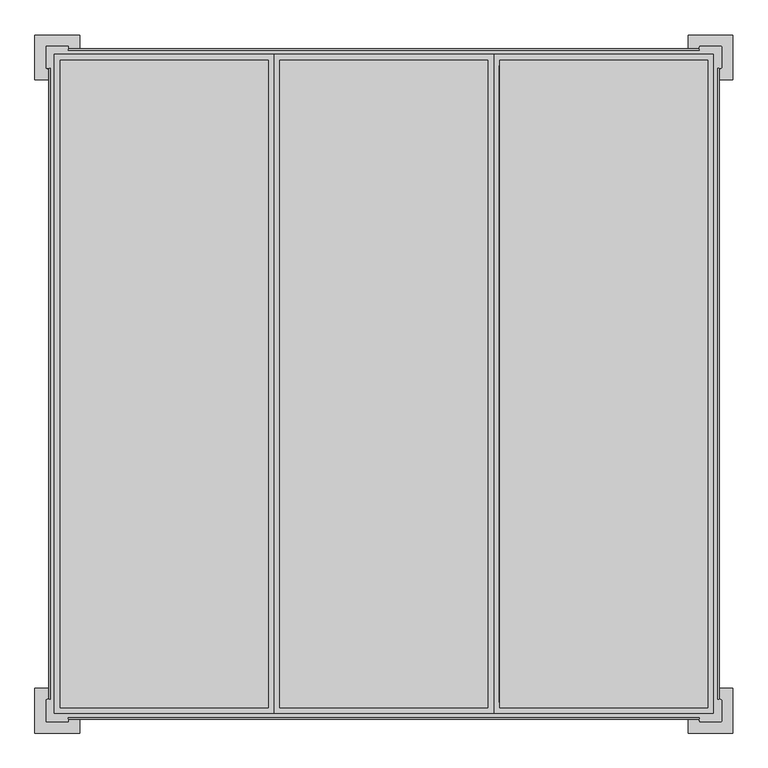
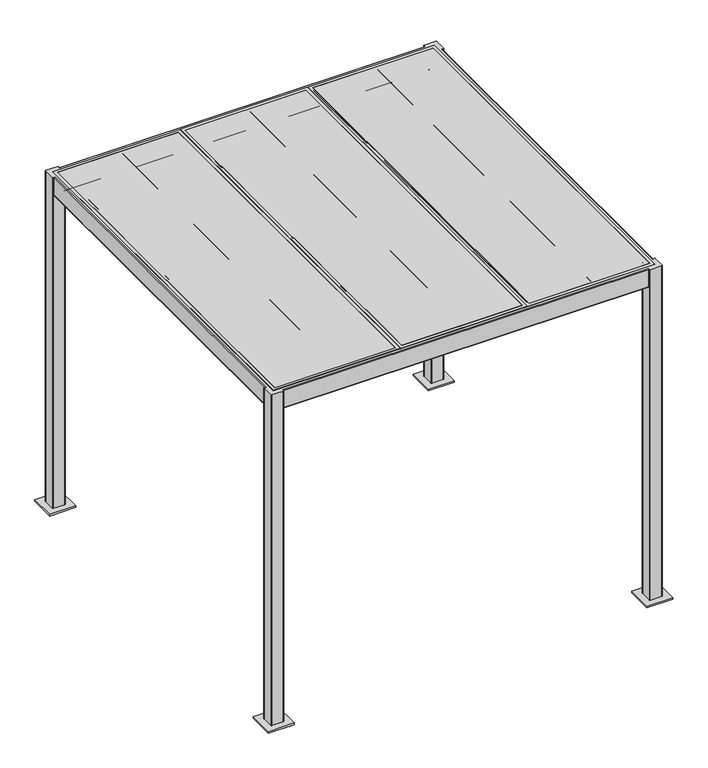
"""IFC4 building model written with IfcOpenShell, lengths in millimetres: proxy geometry, VIVA-Railings_Special-Equipment_Shade-Structurel-Sun-Control-System : 10’ 0” x 10’ 0” - Aluminum 1/8''."""

from ifc_helpers import new_model, si_unit, point, frame, frame_2d, origin, place, context, project, spatial, polyline, circle_curve, trimmed, segment, composite_curve, outline, extrude, source, transform, mapped, element, save
from ifc_brep_helpers import plane_surface, cylinder_surface, advanced_brep


def specialty_equipment_c06f3a59(model_context):
    return source(origin(), model_context, "Body", "SolidModel", [
        extrude(outline(composite_curve([segment(polyline([(2755.9, 1031.875), (2755.9, 993.775)]), True, "CONTINUOUS"), segment(trimmed(circle_curve(frame_2d((2749.55, 993.775)), 6.35), [point((2755.9, 993.775))], [point((2749.55, 987.425))], False, "CARTESIAN"), True, "CONTINUOUS"), segment(polyline([(2749.55, 987.425), (2635.25, 987.425)]), True, "CONTINUOUS"), segment(trimmed(circle_curve(frame_2d((2635.25, 993.775)), 6.35), [point((2635.25, 987.425))], [point((2628.9, 993.775))], False, "CARTESIAN"), True, "CONTINUOUS"), segment(polyline([(2628.9, 993.775), (2628.9, 1031.875)]), True, "CONTINUOUS"), segment(trimmed(circle_curve(frame_2d((2635.25, 1031.875)), 6.35), [point((2628.9, 1031.875))], [point((2635.25, 1038.225))], False, "CARTESIAN"), True, "CONTINUOUS"), segment(polyline([(2635.25, 1038.225), (2749.55, 1038.225)]), True, "CONTINUOUS"), segment(trimmed(circle_curve(frame_2d((2749.55, 1031.875)), 6.35), [point((2749.55, 1038.225))], [point((2755.9, 1031.875))], False, "CARTESIAN"), True, "CONTINUOUS")], self_intersect=False)), frame((0.0, -1143.0, 0.0), z_axis=(0.0, 1.0, 0.0), x_axis=(0.0, 0.0, 1.0)), (0.0, 0.0, 1.0), 2895.6),
        extrude(outline(composite_curve([segment(polyline([(2755.9, 31.75), (2755.9, -6.35)]), True, "CONTINUOUS"), segment(trimmed(circle_curve(frame_2d((2749.55, -6.35)), 6.35), [point((2755.9, -6.35))], [point((2749.55, -12.7))], False, "CARTESIAN"), True, "CONTINUOUS"), segment(polyline([(2749.55, -12.7), (2635.25, -12.7)]), True, "CONTINUOUS"), segment(trimmed(circle_curve(frame_2d((2635.25, -6.35)), 6.35), [point((2635.25, -12.7))], [point((2628.9, -6.35))], False, "CARTESIAN"), True, "CONTINUOUS"), segment(polyline([(2628.9, -6.35), (2628.9, 31.75)]), True, "CONTINUOUS"), segment(trimmed(circle_curve(frame_2d((2635.25, 31.75)), 6.35), [point((2628.9, 31.75))], [point((2635.25, 38.1))], False, "CARTESIAN"), True, "CONTINUOUS"), segment(polyline([(2635.25, 38.1), (2749.55, 38.1)]), True, "CONTINUOUS"), segment(trimmed(circle_curve(frame_2d((2749.55, 31.75)), 6.35), [point((2749.55, 38.1))], [point((2755.9, 31.75))], False, "CARTESIAN"), True, "CONTINUOUS")], self_intersect=False)), frame((0.0, -1143.0, 0.0), z_axis=(0.0, 1.0, 0.0), x_axis=(0.0, 0.0, 1.0)), (0.0, 0.0, 1.0), 2895.6),
        extrude(outline(composite_curve([segment(polyline([(2755.9, -968.375), (2755.9, -1006.475)]), True, "CONTINUOUS"), segment(trimmed(circle_curve(frame_2d((2749.55, -1006.475)), 6.35), [point((2755.9, -1006.475))], [point((2749.55, -1012.825))], False, "CARTESIAN"), True, "CONTINUOUS"), segment(polyline([(2749.55, -1012.825), (2635.25, -1012.825)]), True, "CONTINUOUS"), segment(trimmed(circle_curve(frame_2d((2635.25, -1006.475)), 6.35), [point((2635.25, -1012.825))], [point((2628.9, -1006.475))], False, "CARTESIAN"), True, "CONTINUOUS"), segment(polyline([(2628.9, -1006.475), (2628.9, -968.375)]), True, "CONTINUOUS"), segment(trimmed(circle_curve(frame_2d((2635.25, -968.375)), 6.35), [point((2628.9, -968.375))], [point((2635.25, -962.025))], False, "CARTESIAN"), True, "CONTINUOUS"), segment(polyline([(2635.25, -962.025), (2749.55, -962.025)]), True, "CONTINUOUS"), segment(trimmed(circle_curve(frame_2d((2749.55, -968.375)), 6.35), [point((2749.55, -962.025))], [point((2755.9, -968.375))], False, "CARTESIAN"), True, "CONTINUOUS")], self_intersect=False)), frame((0.0, -1143.0, 0.0), z_axis=(0.0, 1.0, 0.0), x_axis=(0.0, 0.0, 1.0)), (0.0, 0.0, 1.0), 2895.6),
        extrude(outline(composite_curve([segment(polyline([(2755.9, 531.8125), (2755.9, 493.7125)]), True, "CONTINUOUS"), segment(trimmed(circle_curve(frame_2d((2749.55, 493.7125)), 6.35), [point((2755.9, 493.7125))], [point((2749.55, 487.3625))], False, "CARTESIAN"), True, "CONTINUOUS"), segment(polyline([(2749.55, 487.3625), (2635.25, 487.3625)]), True, "CONTINUOUS"), segment(trimmed(circle_curve(frame_2d((2635.25, 493.7125)), 6.35), [point((2635.25, 487.3625))], [point((2628.9, 493.7125))], False, "CARTESIAN"), True, "CONTINUOUS"), segment(polyline([(2628.9, 493.7125), (2628.9, 531.8125)]), True, "CONTINUOUS"), segment(trimmed(circle_curve(frame_2d((2635.25, 531.8125)), 6.35), [point((2628.9, 531.8125))], [point((2635.25, 538.1625))], False, "CARTESIAN"), True, "CONTINUOUS"), segment(polyline([(2635.25, 538.1625), (2749.55, 538.1625)]), True, "CONTINUOUS"), segment(trimmed(circle_curve(frame_2d((2749.55, 531.8125)), 6.35), [point((2749.55, 538.1625))], [point((2755.9, 531.8125))], False, "CARTESIAN"), True, "CONTINUOUS")], self_intersect=False)), frame((0.0, -1143.0, 0.0), z_axis=(0.0, 1.0, 0.0), x_axis=(0.0, 0.0, 1.0)), (0.0, 0.0, 1.0), 2895.6),
        extrude(outline(composite_curve([segment(polyline([(2755.9, -468.3125), (2755.9, -506.4125)]), True, "CONTINUOUS"), segment(trimmed(circle_curve(frame_2d((2749.55, -506.4125)), 6.35), [point((2755.9, -506.4125))], [point((2749.55, -512.7625))], False, "CARTESIAN"), True, "CONTINUOUS"), segment(polyline([(2749.55, -512.7625), (2635.25, -512.7625)]), True, "CONTINUOUS"), segment(trimmed(circle_curve(frame_2d((2635.25, -506.4125)), 6.35), [point((2635.25, -512.7625))], [point((2628.9, -506.4125))], False, "CARTESIAN"), True, "CONTINUOUS"), segment(polyline([(2628.9, -506.4125), (2628.9, -468.3125)]), True, "CONTINUOUS"), segment(trimmed(circle_curve(frame_2d((2635.25, -468.3125)), 6.35), [point((2628.9, -468.3125))], [point((2635.25, -461.9625))], False, "CARTESIAN"), True, "CONTINUOUS"), segment(polyline([(2635.25, -461.9625), (2749.55, -461.9625)]), True, "CONTINUOUS"), segment(trimmed(circle_curve(frame_2d((2749.55, -468.3125)), 6.35), [point((2749.55, -461.9625))], [point((2755.9, -468.3125))], False, "CARTESIAN"), True, "CONTINUOUS")], self_intersect=False)), frame((0.0, -1143.0, 0.0), z_axis=(0.0, 1.0, 0.0), x_axis=(0.0, 0.0, 1.0)), (0.0, 0.0, 1.0), 2895.6),
        extrude(outline(polyline([(1485.9, 1778.0), (1485.9, -1168.4), (539.75, -1168.4), (539.75, 1778.0), (1485.9, 1778.0)])), frame((0.0, 0.0, 2755.9), z_axis=(0.0, 0.0, 1.0), x_axis=(1.0, 0.0, 0.0)), (0.0, 0.0, 1.0), 3.175),
        extrude(outline(polyline([(1511.3, 1803.4), (1511.3, -1193.8), (514.35, -1193.8), (514.35, 1803.4), (1511.3, 1803.4)]), holes=[polyline([(1485.9, 1778.0), (539.75, 1778.0), (539.75, -1168.4), (1485.9, -1168.4), (1485.9, 1778.0)])]), frame((0.0, 0.0, 2755.9), z_axis=(0.0, 0.0, 1.0), x_axis=(1.0, 0.0, 0.0)), (0.0, 0.0, 1.0), 3.175),
        extrude(outline(polyline([(485.775, 1778.0), (485.775, -1168.4), (-460.375, -1168.4), (-460.375, 1778.0), (485.775, 1778.0)])), frame((0.0, 0.0, 2755.9), z_axis=(0.0, 0.0, 1.0), x_axis=(1.0, 0.0, 0.0)), (0.0, 0.0, 1.0), 3.175),
        extrude(outline(polyline([(-514.35, 1778.0), (-514.35, -1168.4), (-1460.5, -1168.4), (-1460.5, 1778.0), (-514.35, 1778.0)])), frame((0.0, 0.0, 2755.9), z_axis=(0.0, 0.0, 1.0), x_axis=(1.0, 0.0, 0.0)), (0.0, 0.0, 1.0), 3.175),
        extrude(outline(polyline([(511.175, 1803.4), (511.175, -1193.8), (-485.775, -1193.8), (-485.775, 1803.4), (511.175, 1803.4)]), holes=[polyline([(485.775, 1778.0), (-460.375, 1778.0), (-460.375, -1168.4), (485.775, -1168.4), (485.775, 1778.0)])]), frame((0.0, 0.0, 2755.9), z_axis=(0.0, 0.0, 1.0), x_axis=(1.0, 0.0, 0.0)), (0.0, 0.0, 1.0), 3.175),
        extrude(outline(polyline([(-488.95, 1803.4), (-488.95, -1193.8), (-1485.9, -1193.8), (-1485.9, 1803.4), (-488.95, 1803.4)]), holes=[polyline([(-514.35, 1778.0), (-1460.5, 1778.0), (-1460.5, -1168.4), (-514.35, -1168.4), (-514.35, 1778.0)])]), frame((0.0, 0.0, 2755.9), z_axis=(0.0, 0.0, 1.0), x_axis=(1.0, 0.0, 0.0)), (0.0, 0.0, 1.0), 3.175),
        advanced_brep(
        [(-1422.4, -1149.35, 2755.9), (1447.8, -1149.35, 2755.9), (1447.8, -1143.0, 2749.55), (-1422.4, -1143.0, 2749.55), (1447.8, -1143.0, 2609.85), (-1422.4, -1143.0, 2609.85), (1447.8, -1149.35, 2603.5), (-1422.4, -1149.35, 2603.5), (-1422.4, -1212.85, 2603.5), (1447.8, -1212.85, 2603.5), (1447.8, -1219.2, 2609.85), (-1422.4, -1219.2, 2609.85), (1447.8, -1219.2, 2749.55), (-1422.4, -1219.2, 2749.55), (1447.8, -1212.85, 2755.9), (-1422.4, -1212.85, 2755.9), (1466.85, -1130.3, 2755.9), (1466.85, 1739.9, 2755.9), (1460.5, 1739.9, 2749.55), (1460.5, -1130.3, 2749.55), (1460.5, 1739.9, 2609.85), (1460.5, -1130.3, 2609.85), (1466.85, 1739.9, 2603.5), (1466.85, -1130.3, 2603.5), (1530.35, -1130.3, 2603.5), (1530.35, 1739.9, 2603.5), (1536.7, 1739.9, 2609.85), (1536.7, -1130.3, 2609.85), (1536.7, 1739.9, 2749.55), (1536.7, -1130.3, 2749.55), (1530.35, 1739.9, 2755.9), (1530.35, -1130.3, 2755.9), (1447.8, 1758.95, 2755.9), (-1422.4, 1758.95, 2755.9), (-1422.4, 1752.6, 2749.55), (1447.8, 1752.6, 2749.55), (-1422.4, 1752.6, 2609.85), (1447.8, 1752.6, 2609.85), (-1422.4, 1758.95, 2603.5), (1447.8, 1758.95, 2603.5), (1447.8, 1822.45, 2603.5), (-1422.4, 1822.45, 2603.5), (-1422.4, 1828.8, 2609.85), (1447.8, 1828.8, 2609.85), (-1422.4, 1828.8, 2749.55), (1447.8, 1828.8, 2749.55), (-1422.4, 1822.45, 2755.9), (1447.8, 1822.45, 2755.9), (-1441.45, 1739.9, 2755.9), (-1441.45, -1130.3, 2755.9), (-1435.1, -1130.3, 2749.55), (-1435.1, 1739.9, 2749.55), (-1435.1, -1130.3, 2609.85), (-1435.1, 1739.9, 2609.85), (-1441.45, -1130.3, 2603.5), (-1441.45, 1739.9, 2603.5), (-1504.95, -1130.3, 2603.5), (-1504.95, 1739.9, 2603.5), (-1511.3, -1130.3, 2609.85), (-1511.3, 1739.9, 2609.85), (-1511.3, -1130.3, 2749.55), (-1511.3, 1739.9, 2749.55), (-1504.95, -1130.3, 2755.9), (-1504.95, 1739.9, 2755.9), (-1428.75, 1841.5, 2755.9), (-1517.65, 1841.5, 2755.9), (-1524.0, 1835.15, 2755.9), (-1524.0, 1746.25, 2755.9), (-1517.65, 1739.9, 2755.9), (-1517.65, -1130.3, 2755.9), (-1524.0, -1136.65, 2755.9), (-1524.0, -1225.55, 2755.9), (-1517.65, -1231.9, 2755.9), (-1428.75, -1231.9, 2755.9), (-1422.4, -1225.55, 2755.9), (1447.8, -1225.55, 2755.9), (1454.15, -1231.9, 2755.9), (1543.05, -1231.9, 2755.9), (1549.4, -1225.55, 2755.9), (1549.4, -1136.65, 2755.9), (1543.05, -1130.3, 2755.9), (1543.05, 1739.9, 2755.9), (1549.4, 1746.25, 2755.9), (1549.4, 1835.15, 2755.9), (1543.05, 1841.5, 2755.9), (1454.15, 1841.5, 2755.9), (1447.8, 1835.15, 2755.9), (-1422.4, 1835.15, 2755.9), (-1428.75, 1739.9, 2755.9), (-1422.4, 1746.25, 2755.9), (1447.8, 1746.25, 2755.9), (1454.15, 1739.9, 2755.9), (1454.15, -1130.3, 2755.9), (1447.8, -1136.65, 2755.9), (-1422.4, -1136.65, 2755.9), (-1428.75, -1130.3, 2755.9), (-1428.75, 1841.5, 12.7), (-1517.65, 1841.5, 12.7), (-1524.0, 1835.15, 12.7), (-1524.0, 1746.25, 12.7), (-1517.65, 1739.9, 12.7), (-1428.75, 1739.9, 12.7), (-1422.4, 1746.25, 12.7), (-1422.4, 1835.15, 12.7), (1454.15, 1841.5, 12.7), (1447.8, 1835.15, 12.7), (1447.8, 1746.25, 12.7), (1454.15, 1739.9, 12.7), (1543.05, 1739.9, 12.7), (1549.4, 1746.25, 12.7), (1549.4, 1835.15, 12.7), (1543.05, 1841.5, 12.7), (-1428.75, -1231.9, 12.7), (-1422.4, -1225.55, 12.7), (-1422.4, -1136.65, 12.7), (-1428.75, -1130.3, 12.7), (-1517.65, -1130.3, 12.7), (-1524.0, -1136.65, 12.7), (-1524.0, -1225.55, 12.7), (-1517.65, -1231.9, 12.7), (1454.15, -1231.9, 12.7), (1543.05, -1231.9, 12.7), (1549.4, -1225.55, 12.7), (1549.4, -1136.65, 12.7), (1543.05, -1130.3, 12.7), (1454.15, -1130.3, 12.7), (1447.8, -1136.65, 12.7), (1447.8, -1225.55, 12.7), (-1371.6, 1892.3, 12.7), (-1574.8, 1892.3, 12.7), (-1574.8, 1689.1, 12.7), (-1371.6, 1689.1, 12.7), (-1371.6, -1282.7, 12.7), (-1371.6, -1079.5, 12.7), (-1574.8, -1079.5, 12.7), (-1574.8, -1282.7, 12.7), (1397.0, 1892.3, 12.7), (1397.0, 1689.1, 12.7), (1600.2, 1689.1, 12.7), (1600.2, 1892.3, 12.7), (1397.0, -1282.7, 12.7), (1600.2, -1282.7, 12.7), (1600.2, -1079.5, 12.7), (1397.0, -1079.5, 12.7), (-1371.6, 1892.3, 0.0), (-1371.6, 1689.1, 0.0), (-1574.8, 1689.1, 0.0), (-1574.8, 1892.3, 0.0), (-1371.6, -1282.7, 0.0), (-1574.8, -1282.7, 0.0), (-1574.8, -1079.5, 0.0), (-1371.6, -1079.5, 0.0), (1397.0, 1892.3, 0.0), (1600.2, 1892.3, 0.0), (1600.2, 1689.1, 0.0), (1397.0, 1689.1, 0.0), (1397.0, -1282.7, 0.0), (1397.0, -1079.5, 0.0), (1600.2, -1079.5, 0.0), (1600.2, -1282.7, 0.0)],
        [
            (0, 1),
            (1, 2, circle_curve(frame((1447.8, -1149.35, 2749.55), z_axis=(-1.0, 0.0, 0.0), x_axis=(0.0, 1.0, 0.0)), 6.35)),
            (2, 3),
            (3, 0, circle_curve(frame((-1422.4, -1149.35, 2749.55), z_axis=(1.0, 0.0, 0.0), x_axis=(0.0, 1.0, 0.0)), 6.35)),
            (2, 4),
            (4, 5),
            (5, 3),
            (4, 6, circle_curve(frame((1447.8, -1149.35, 2609.85), z_axis=(-1.0, 0.0, 0.0), x_axis=(0.0, 1.0, 0.0)), 6.35)),
            (6, 7),
            (7, 5, circle_curve(frame((-1422.4, -1149.35, 2609.85), z_axis=(1.0, 0.0, 0.0), x_axis=(0.0, 1.0, 0.0)), 6.35)),
            (8, 9),
            (9, 10, circle_curve(frame((1447.8, -1212.85, 2609.85), z_axis=(-1.0, 0.0, 0.0), x_axis=(0.0, 1.0, 0.0)), 6.35)),
            (10, 11),
            (11, 8, circle_curve(frame((-1422.4, -1212.85, 2609.85), z_axis=(1.0, 0.0, 0.0), x_axis=(0.0, 1.0, 0.0)), 6.35)),
            (10, 12),
            (12, 13),
            (13, 11),
            (12, 14, circle_curve(frame((1447.8, -1212.85, 2749.55), z_axis=(-1.0, 0.0, 0.0), x_axis=(0.0, 1.0, 0.0)), 6.35)),
            (14, 15),
            (15, 13, circle_curve(frame((-1422.4, -1212.85, 2749.55), z_axis=(1.0, 0.0, 0.0), x_axis=(0.0, 1.0, 0.0)), 6.35)),
            (16, 17),
            (17, 18, circle_curve(frame((1466.85, 1739.9, 2749.55), z_axis=(0.0, -1.0, 0.0), x_axis=(-1.0, 0.0, 0.0)), 6.35)),
            (18, 19),
            (19, 16, circle_curve(frame((1466.85, -1130.3, 2749.55), z_axis=(0.0, 1.0, 0.0), x_axis=(-1.0, 0.0, 0.0)), 6.35)),
            (18, 20),
            (20, 21),
            (21, 19),
            (20, 22, circle_curve(frame((1466.85, 1739.9, 2609.85), z_axis=(0.0, -1.0, 0.0), x_axis=(-1.0, 0.0, 0.0)), 6.35)),
            (22, 23),
            (23, 21, circle_curve(frame((1466.85, -1130.3, 2609.85), z_axis=(0.0, 1.0, 0.0), x_axis=(-1.0, 0.0, 0.0)), 6.35)),
            (24, 25),
            (25, 26, circle_curve(frame((1530.35, 1739.9, 2609.85), z_axis=(0.0, -1.0, 0.0), x_axis=(-1.0, 0.0, 0.0)), 6.35)),
            (26, 27),
            (27, 24, circle_curve(frame((1530.35, -1130.3, 2609.85), z_axis=(0.0, 1.0, 0.0), x_axis=(-1.0, 0.0, 0.0)), 6.35)),
            (26, 28),
            (28, 29),
            (29, 27),
            (28, 30, circle_curve(frame((1530.35, 1739.9, 2749.55), z_axis=(0.0, -1.0, 0.0), x_axis=(-1.0, 0.0, 0.0)), 6.35)),
            (30, 31),
            (31, 29, circle_curve(frame((1530.35, -1130.3, 2749.55), z_axis=(0.0, 1.0, 0.0), x_axis=(-1.0, 0.0, 0.0)), 6.35)),
            (32, 33),
            (33, 34, circle_curve(frame((-1422.4, 1758.95, 2749.55), z_axis=(1.0, 0.0, 0.0), x_axis=(0.0, -1.0, 0.0)), 6.35)),
            (34, 35),
            (35, 32, circle_curve(frame((1447.8, 1758.95, 2749.55), z_axis=(-1.0, 0.0, 0.0), x_axis=(0.0, -1.0, 0.0)), 6.35)),
            (34, 36),
            (36, 37),
            (37, 35),
            (36, 38, circle_curve(frame((-1422.4, 1758.95, 2609.85), z_axis=(1.0, 0.0, 0.0), x_axis=(0.0, -1.0, 0.0)), 6.35)),
            (38, 39),
            (39, 37, circle_curve(frame((1447.8, 1758.95, 2609.85), z_axis=(-1.0, 0.0, 0.0), x_axis=(0.0, -1.0, 0.0)), 6.35)),
            (40, 41),
            (41, 42, circle_curve(frame((-1422.4, 1822.45, 2609.85), z_axis=(1.0, 0.0, 0.0), x_axis=(0.0, -1.0, 0.0)), 6.35)),
            (42, 43),
            (43, 40, circle_curve(frame((1447.8, 1822.45, 2609.85), z_axis=(-1.0, 0.0, 0.0), x_axis=(0.0, -1.0, 0.0)), 6.35)),
            (42, 44),
            (44, 45),
            (45, 43),
            (44, 46, circle_curve(frame((-1422.4, 1822.45, 2749.55), z_axis=(1.0, 0.0, 0.0), x_axis=(0.0, -1.0, 0.0)), 6.35)),
            (46, 47),
            (47, 45, circle_curve(frame((1447.8, 1822.45, 2749.55), z_axis=(-1.0, 0.0, 0.0), x_axis=(0.0, -1.0, 0.0)), 6.35)),
            (48, 49),
            (49, 50, circle_curve(frame((-1441.45, -1130.3, 2749.55), z_axis=(0.0, 1.0, 0.0), x_axis=(1.0, 0.0, 0.0)), 6.35)),
            (50, 51),
            (51, 48, circle_curve(frame((-1441.45, 1739.9, 2749.55), z_axis=(0.0, -1.0, 0.0), x_axis=(1.0, 0.0, 0.0)), 6.35)),
            (50, 52),
            (52, 53),
            (53, 51),
            (52, 54, circle_curve(frame((-1441.45, -1130.3, 2609.85), z_axis=(0.0, 1.0, 0.0), x_axis=(1.0, 0.0, 0.0)), 6.35)),
            (54, 55),
            (55, 53, circle_curve(frame((-1441.45, 1739.9, 2609.85), z_axis=(0.0, -1.0, 0.0), x_axis=(1.0, 0.0, 0.0)), 6.35)),
            (8, 7),
            (6, 9),
            (24, 23),
            (22, 25),
            (40, 39),
            (38, 41),
            (54, 56),
            (56, 57),
            (57, 55),
            (56, 58, circle_curve(frame((-1504.95, -1130.3, 2609.85), z_axis=(0.0, 1.0, 0.0), x_axis=(1.0, 0.0, 0.0)), 6.35)),
            (58, 59),
            (59, 57, circle_curve(frame((-1504.95, 1739.9, 2609.85), z_axis=(0.0, -1.0, 0.0), x_axis=(1.0, 0.0, 0.0)), 6.35)),
            (58, 60),
            (60, 61),
            (61, 59),
            (60, 62, circle_curve(frame((-1504.95, -1130.3, 2749.55), z_axis=(0.0, 1.0, 0.0), x_axis=(1.0, 0.0, 0.0)), 6.35)),
            (62, 63),
            (63, 61, circle_curve(frame((-1504.95, 1739.9, 2749.55), z_axis=(0.0, -1.0, 0.0), x_axis=(1.0, 0.0, 0.0)), 6.35)),
            (64, 65),
            (65, 66, circle_curve(frame((-1517.65, 1835.15, 2755.9), z_axis=(0.0, 0.0, 1.0), x_axis=(1.0, 0.0, 0.0)), 6.35)),
            (66, 67),
            (67, 68, circle_curve(frame((-1517.65, 1746.25, 2755.9), z_axis=(0.0, 0.0, 1.0), x_axis=(1.0, 0.0, 0.0)), 6.35)),
            (68, 63),
            (62, 69),
            (69, 70, circle_curve(frame((-1517.65, -1136.65, 2755.9), z_axis=(0.0, 0.0, 1.0), x_axis=(1.0, 0.0, 0.0)), 6.35)),
            (70, 71),
            (71, 72, circle_curve(frame((-1517.65, -1225.55, 2755.9), z_axis=(0.0, 0.0, 1.0), x_axis=(1.0, 0.0, 0.0)), 6.35)),
            (72, 73),
            (73, 74, circle_curve(frame((-1428.75, -1225.55, 2755.9), z_axis=(0.0, 0.0, 1.0), x_axis=(1.0, 0.0, 0.0)), 6.35)),
            (74, 15),
            (14, 75),
            (75, 76, circle_curve(frame((1454.15, -1225.55, 2755.9), z_axis=(0.0, 0.0, 1.0), x_axis=(1.0, 0.0, 0.0)), 6.35)),
            (76, 77),
            (77, 78, circle_curve(frame((1543.05, -1225.55, 2755.9), z_axis=(0.0, 0.0, 1.0), x_axis=(1.0, 0.0, 0.0)), 6.35)),
            (78, 79),
            (79, 80, circle_curve(frame((1543.05, -1136.65, 2755.9), z_axis=(0.0, 0.0, 1.0), x_axis=(1.0, 0.0, 0.0)), 6.35)),
            (80, 31),
            (30, 81),
            (81, 82, circle_curve(frame((1543.05, 1746.25, 2755.9), z_axis=(0.0, 0.0, 1.0), x_axis=(1.0, 0.0, 0.0)), 6.35)),
            (82, 83),
            (83, 84, circle_curve(frame((1543.05, 1835.15, 2755.9), z_axis=(0.0, 0.0, 1.0), x_axis=(1.0, 0.0, 0.0)), 6.35)),
            (84, 85),
            (85, 86, circle_curve(frame((1454.15, 1835.15, 2755.9), z_axis=(0.0, 0.0, 1.0), x_axis=(1.0, 0.0, 0.0)), 6.35)),
            (86, 47),
            (46, 87),
            (87, 64, circle_curve(frame((-1428.75, 1835.15, 2755.9), z_axis=(0.0, 0.0, 1.0), x_axis=(1.0, 0.0, 0.0)), 6.35)),
            (88, 89, circle_curve(frame((-1428.75, 1746.25, 2755.9), z_axis=(0.0, 0.0, 1.0), x_axis=(1.0, 0.0, 0.0)), 6.35)),
            (89, 33),
            (32, 90),
            (90, 91, circle_curve(frame((1454.15, 1746.25, 2755.9), z_axis=(0.0, 0.0, 1.0), x_axis=(1.0, 0.0, 0.0)), 6.35)),
            (91, 17),
            (16, 92),
            (92, 93, circle_curve(frame((1454.15, -1136.65, 2755.9), z_axis=(0.0, 0.0, 1.0), x_axis=(1.0, 0.0, 0.0)), 6.35)),
            (93, 1),
            (0, 94),
            (94, 95, circle_curve(frame((-1428.75, -1136.65, 2755.9), z_axis=(0.0, 0.0, 1.0), x_axis=(1.0, 0.0, 0.0)), 6.35)),
            (95, 49),
            (48, 88),
            (64, 96),
            (96, 97),
            (97, 65),
            (97, 98, circle_curve(frame((-1517.65, 1835.15, 12.7), z_axis=(0.0, 0.0, 1.0), x_axis=(1.0, 0.0, 0.0)), 6.35)),
            (98, 66),
            (98, 99),
            (99, 67),
            (99, 100, circle_curve(frame((-1517.65, 1746.25, 12.7), z_axis=(0.0, 0.0, 1.0), x_axis=(1.0, 0.0, 0.0)), 6.35)),
            (100, 68),
            (100, 101),
            (101, 88),
            (101, 102, circle_curve(frame((-1428.75, 1746.25, 12.7), z_axis=(0.0, 0.0, 1.0), x_axis=(1.0, 0.0, 0.0)), 6.35)),
            (102, 89),
            (102, 103),
            (103, 87),
            (103, 96, circle_curve(frame((-1428.75, 1835.15, 12.7), z_axis=(0.0, 0.0, 1.0), x_axis=(1.0, 0.0, 0.0)), 6.35)),
            (85, 104),
            (104, 105, circle_curve(frame((1454.15, 1835.15, 12.7), z_axis=(0.0, 0.0, 1.0), x_axis=(1.0, 0.0, 0.0)), 6.35)),
            (105, 86),
            (105, 106),
            (106, 90),
            (106, 107, circle_curve(frame((1454.15, 1746.25, 12.7), z_axis=(0.0, 0.0, 1.0), x_axis=(1.0, 0.0, 0.0)), 6.35)),
            (107, 91),
            (107, 108),
            (108, 81),
            (108, 109, circle_curve(frame((1543.05, 1746.25, 12.7), z_axis=(0.0, 0.0, 1.0), x_axis=(1.0, 0.0, 0.0)), 6.35)),
            (109, 82),
            (109, 110),
            (110, 83),
            (110, 111, circle_curve(frame((1543.05, 1835.15, 12.7), z_axis=(0.0, 0.0, 1.0), x_axis=(1.0, 0.0, 0.0)), 6.35)),
            (111, 84),
            (111, 104),
            (73, 112),
            (112, 113, circle_curve(frame((-1428.75, -1225.55, 12.7), z_axis=(0.0, 0.0, 1.0), x_axis=(1.0, 0.0, 0.0)), 6.35)),
            (113, 74),
            (113, 114),
            (114, 94),
            (114, 115, circle_curve(frame((-1428.75, -1136.65, 12.7), z_axis=(0.0, 0.0, 1.0), x_axis=(1.0, 0.0, 0.0)), 6.35)),
            (115, 95),
            (115, 116),
            (116, 69),
            (116, 117, circle_curve(frame((-1517.65, -1136.65, 12.7), z_axis=(0.0, 0.0, 1.0), x_axis=(1.0, 0.0, 0.0)), 6.35)),
            (117, 70),
            (117, 118),
            (118, 71),
            (118, 119, circle_curve(frame((-1517.65, -1225.55, 12.7), z_axis=(0.0, 0.0, 1.0), x_axis=(1.0, 0.0, 0.0)), 6.35)),
            (119, 72),
            (119, 112),
            (76, 120),
            (120, 121),
            (121, 77),
            (121, 122, circle_curve(frame((1543.05, -1225.55, 12.7), z_axis=(0.0, 0.0, 1.0), x_axis=(1.0, 0.0, 0.0)), 6.35)),
            (122, 78),
            (122, 123),
            (123, 79),
            (123, 124, circle_curve(frame((1543.05, -1136.65, 12.7), z_axis=(0.0, 0.0, 1.0), x_axis=(1.0, 0.0, 0.0)), 6.35)),
            (124, 80),
            (124, 125),
            (125, 92),
            (125, 126, circle_curve(frame((1454.15, -1136.65, 12.7), z_axis=(0.0, 0.0, 1.0), x_axis=(1.0, 0.0, 0.0)), 6.35)),
            (126, 93),
            (126, 127),
            (127, 75),
            (127, 120, circle_curve(frame((1454.15, -1225.55, 12.7), z_axis=(0.0, 0.0, 1.0), x_axis=(1.0, 0.0, 0.0)), 6.35)),
            (128, 129),
            (129, 130),
            (130, 131),
            (131, 128),
            (132, 133),
            (133, 134),
            (134, 135),
            (135, 132),
            (136, 137),
            (137, 138),
            (138, 139),
            (139, 136),
            (140, 141),
            (141, 142),
            (142, 143),
            (143, 140),
            (144, 145),
            (145, 146),
            (146, 147),
            (147, 144),
            (148, 149),
            (149, 150),
            (150, 151),
            (151, 148),
            (152, 153),
            (153, 154),
            (154, 155),
            (155, 152),
            (156, 157),
            (157, 158),
            (158, 159),
            (159, 156),
            (128, 144),
            (147, 129),
            (146, 130),
            (145, 131),
            (132, 148),
            (151, 133),
            (150, 134),
            (149, 135),
            (136, 152),
            (155, 137),
            (154, 138),
            (153, 139),
            (140, 156),
            (159, 141),
            (158, 142),
            (157, 143),
        ],
        [
            cylinder_surface(frame((-1511.3, -1149.35, 2749.55), z_axis=(-1.0, 0.0, 0.0), x_axis=(0.0, 1.0, 0.0)), 6.35),
            plane_surface(frame((-1435.1, -1143.0, 2749.55), z_axis=(0.0, 1.0, 0.0), x_axis=(1.0, 0.0, 0.0))),
            cylinder_surface(frame((-1511.3, -1149.35, 2609.85), z_axis=(-1.0, 0.0, 0.0), x_axis=(0.0, 1.0, 0.0)), 6.35),
            cylinder_surface(frame((-1511.3, -1212.85, 2609.85), z_axis=(-1.0, 0.0, 0.0), x_axis=(0.0, 1.0, 0.0)), 6.35),
            plane_surface(frame((-1511.3, -1219.2, 2609.85), z_axis=(0.0, -1.0, 0.0), x_axis=(1.0, 0.0, 0.0))),
            cylinder_surface(frame((-1511.3, -1212.85, 2749.55), z_axis=(-1.0, 0.0, 0.0), x_axis=(0.0, 1.0, 0.0)), 6.35),
            cylinder_surface(frame((1466.85, -1219.2, 2749.55), z_axis=(0.0, -1.0, 0.0), x_axis=(-1.0, 0.0, 0.0)), 6.35),
            plane_surface(frame((1460.5, -1143.0, 2749.55), z_axis=(-1.0, 0.0, 0.0), x_axis=(0.0, 1.0, 0.0))),
            cylinder_surface(frame((1466.85, -1219.2, 2609.85), z_axis=(0.0, -1.0, 0.0), x_axis=(-1.0, 0.0, 0.0)), 6.35),
            cylinder_surface(frame((1530.35, -1219.2, 2609.85), z_axis=(0.0, -1.0, 0.0), x_axis=(-1.0, 0.0, 0.0)), 6.35),
            plane_surface(frame((1536.7, -1219.2, 2609.85), z_axis=(1.0, 0.0, 0.0), x_axis=(0.0, 1.0, 0.0))),
            cylinder_surface(frame((1530.35, -1219.2, 2749.55), z_axis=(0.0, -1.0, 0.0), x_axis=(-1.0, 0.0, 0.0)), 6.35),
            cylinder_surface(frame((1536.7, 1758.95, 2749.55), z_axis=(1.0, 0.0, 0.0), x_axis=(0.0, -1.0, 0.0)), 6.35),
            plane_surface(frame((1460.5, 1752.6, 2749.55), z_axis=(0.0, -1.0, 0.0), x_axis=(-1.0, 0.0, 0.0))),
            cylinder_surface(frame((1536.7, 1758.95, 2609.85), z_axis=(1.0, 0.0, 0.0), x_axis=(0.0, -1.0, 0.0)), 6.35),
            cylinder_surface(frame((1536.7, 1822.45, 2609.85), z_axis=(1.0, 0.0, 0.0), x_axis=(0.0, -1.0, 0.0)), 6.35),
            plane_surface(frame((1536.7, 1828.8, 2609.85), z_axis=(0.0, 1.0, 0.0), x_axis=(-1.0, 0.0, 0.0))),
            cylinder_surface(frame((1536.7, 1822.45, 2749.55), z_axis=(1.0, 0.0, 0.0), x_axis=(0.0, -1.0, 0.0)), 6.35),
            cylinder_surface(frame((-1441.45, 1828.8, 2749.55), z_axis=(0.0, 1.0, 0.0), x_axis=(1.0, 0.0, 0.0)), 6.35),
            plane_surface(frame((-1435.1, 1752.6, 2749.55), z_axis=(1.0, 0.0, 0.0), x_axis=(0.0, -1.0, 0.0))),
            cylinder_surface(frame((-1441.45, 1828.8, 2609.85), z_axis=(0.0, 1.0, 0.0), x_axis=(1.0, 0.0, 0.0)), 6.35),
            plane_surface(frame((-1441.45, 1758.95, 2603.5), z_axis=(0.0, 0.0, -1.0), x_axis=(0.0, -1.0, 0.0))),
            cylinder_surface(frame((-1504.95, 1828.8, 2609.85), z_axis=(0.0, 1.0, 0.0), x_axis=(1.0, 0.0, 0.0)), 6.35),
            plane_surface(frame((-1511.3, 1828.8, 2609.85), z_axis=(-1.0, 0.0, 0.0), x_axis=(0.0, -1.0, 0.0))),
            cylinder_surface(frame((-1504.95, 1828.8, 2749.55), z_axis=(0.0, 1.0, 0.0), x_axis=(1.0, 0.0, 0.0)), 6.35),
            plane_surface(frame((-1504.95, 1822.45, 2755.9), z_axis=(0.0, 0.0, 1.0), x_axis=(0.0, -1.0, 0.0))),
            plane_surface(frame((-1428.75, 1841.5, 2755.9), z_axis=(0.0, 1.0, 0.0), x_axis=(0.0, 0.0, -1.0))),
            cylinder_surface(frame((-1517.65, 1835.15, 12.7), z_axis=(0.0, 0.0, 1.0), x_axis=(1.0, 0.0, 0.0)), 6.35),
            plane_surface(frame((-1524.0, 1835.15, 2755.9), z_axis=(-1.0, 0.0, 0.0), x_axis=(0.0, 0.0, -1.0))),
            cylinder_surface(frame((-1517.65, 1746.25, 12.7), z_axis=(0.0, 0.0, 1.0), x_axis=(1.0, 0.0, 0.0)), 6.35),
            plane_surface(frame((-1517.65, 1739.9, 2755.9), z_axis=(0.0, -1.0, 0.0), x_axis=(0.0, 0.0, -1.0))),
            cylinder_surface(frame((-1428.75, 1746.25, 12.7), z_axis=(0.0, 0.0, 1.0), x_axis=(1.0, 0.0, 0.0)), 6.35),
            plane_surface(frame((-1422.4, 1746.25, 2755.9), z_axis=(1.0, 0.0, 0.0), x_axis=(0.0, 0.0, -1.0))),
            cylinder_surface(frame((-1428.75, 1835.15, 12.7), z_axis=(0.0, 0.0, 1.0), x_axis=(1.0, 0.0, 0.0)), 6.35),
            cylinder_surface(frame((1454.15, 1835.15, 0.0), z_axis=(0.0, 0.0, 1.0), x_axis=(1.0, 0.0, 0.0)), 6.35),
            plane_surface(frame((1447.8, 1835.15, 2755.9), z_axis=(-1.0, 0.0, 0.0), x_axis=(0.0, 0.0, -1.0))),
            cylinder_surface(frame((1454.15, 1746.25, 0.0), z_axis=(0.0, 0.0, 1.0), x_axis=(1.0, 0.0, 0.0)), 6.35),
            plane_surface(frame((1454.15, 1739.9, 2755.9), z_axis=(0.0, -1.0, 0.0), x_axis=(0.0, 0.0, -1.0))),
            cylinder_surface(frame((1543.05, 1746.25, 0.0), z_axis=(0.0, 0.0, 1.0), x_axis=(1.0, 0.0, 0.0)), 6.35),
            plane_surface(frame((1549.4, 1746.25, 2755.9), z_axis=(1.0, 0.0, 0.0), x_axis=(0.0, 0.0, -1.0))),
            cylinder_surface(frame((1543.05, 1835.15, 0.0), z_axis=(0.0, 0.0, 1.0), x_axis=(1.0, 0.0, 0.0)), 6.35),
            plane_surface(frame((1543.05, 1841.5, 2755.9), z_axis=(0.0, 1.0, 0.0), x_axis=(0.0, 0.0, -1.0))),
            cylinder_surface(frame((-1428.75, -1225.55, 0.0), z_axis=(0.0, 0.0, 1.0), x_axis=(1.0, 0.0, 0.0)), 6.35),
            plane_surface(frame((-1422.4, -1225.55, 2755.9), z_axis=(1.0, 0.0, 0.0), x_axis=(0.0, 0.0, -1.0))),
            cylinder_surface(frame((-1428.75, -1136.65, 0.0), z_axis=(0.0, 0.0, 1.0), x_axis=(1.0, 0.0, 0.0)), 6.35),
            plane_surface(frame((-1428.75, -1130.3, 2755.9), z_axis=(0.0, 1.0, 0.0), x_axis=(0.0, 0.0, -1.0))),
            cylinder_surface(frame((-1517.65, -1136.65, 0.0), z_axis=(0.0, 0.0, 1.0), x_axis=(1.0, 0.0, 0.0)), 6.35),
            plane_surface(frame((-1524.0, -1136.65, 2755.9), z_axis=(-1.0, 0.0, 0.0), x_axis=(0.0, 0.0, -1.0))),
            cylinder_surface(frame((-1517.65, -1225.55, 0.0), z_axis=(0.0, 0.0, 1.0), x_axis=(1.0, 0.0, 0.0)), 6.35),
            plane_surface(frame((-1517.65, -1231.9, 2755.9), z_axis=(0.0, -1.0, 0.0), x_axis=(0.0, 0.0, -1.0))),
            plane_surface(frame((1454.15, -1231.9, 2755.9), z_axis=(0.0, -1.0, 0.0), x_axis=(0.0, 0.0, -1.0))),
            cylinder_surface(frame((1543.05, -1225.55, 0.0), z_axis=(0.0, 0.0, 1.0), x_axis=(1.0, 0.0, 0.0)), 6.35),
            plane_surface(frame((1549.4, -1225.55, 2755.9), z_axis=(1.0, 0.0, 0.0), x_axis=(0.0, 0.0, -1.0))),
            cylinder_surface(frame((1543.05, -1136.65, 0.0), z_axis=(0.0, 0.0, 1.0), x_axis=(1.0, 0.0, 0.0)), 6.35),
            plane_surface(frame((1543.05, -1130.3, 2755.9), z_axis=(0.0, 1.0, 0.0), x_axis=(0.0, 0.0, -1.0))),
            cylinder_surface(frame((1454.15, -1136.65, 0.0), z_axis=(0.0, 0.0, 1.0), x_axis=(1.0, 0.0, 0.0)), 6.35),
            plane_surface(frame((1447.8, -1136.65, 2755.9), z_axis=(-1.0, 0.0, 0.0), x_axis=(0.0, 0.0, -1.0))),
            cylinder_surface(frame((1454.15, -1225.55, 0.0), z_axis=(0.0, 0.0, 1.0), x_axis=(1.0, 0.0, 0.0)), 6.35),
            plane_surface(frame((-1574.8, 1892.3, 12.7), z_axis=(0.0, 0.0, 1.0), x_axis=(-1.0, 0.0, 0.0))),
            plane_surface(frame((-1574.8, 1892.3, 0.0), z_axis=(0.0, 0.0, -1.0), x_axis=(1.0, 0.0, 0.0))),
            plane_surface(frame((-1371.6, 1892.3, 12.7), z_axis=(0.0, 1.0, 0.0), x_axis=(0.0, 0.0, -1.0))),
            plane_surface(frame((-1574.8, 1892.3, 12.7), z_axis=(-1.0, 0.0, 0.0), x_axis=(0.0, 0.0, -1.0))),
            plane_surface(frame((-1574.8, 1689.1, 12.7), z_axis=(0.0, -1.0, 0.0), x_axis=(0.0, 0.0, -1.0))),
            plane_surface(frame((-1371.6, 1689.1, 12.7), z_axis=(1.0, 0.0, 0.0), x_axis=(0.0, 0.0, -1.0))),
            plane_surface(frame((-1371.6, -1282.7, 12.7), z_axis=(1.0, 0.0, 0.0), x_axis=(0.0, 0.0, -1.0))),
            plane_surface(frame((-1371.6, -1079.5, 12.7), z_axis=(0.0, 1.0, 0.0), x_axis=(0.0, 0.0, -1.0))),
            plane_surface(frame((-1574.8, -1079.5, 12.7), z_axis=(-1.0, 0.0, 0.0), x_axis=(0.0, 0.0, -1.0))),
            plane_surface(frame((-1574.8, -1282.7, 12.7), z_axis=(0.0, -1.0, 0.0), x_axis=(0.0, 0.0, -1.0))),
            plane_surface(frame((1397.0, 1892.3, 12.7), z_axis=(-1.0, 0.0, 0.0), x_axis=(0.0, 0.0, -1.0))),
            plane_surface(frame((1397.0, 1689.1, 12.7), z_axis=(0.0, -1.0, 0.0), x_axis=(0.0, 0.0, -1.0))),
            plane_surface(frame((1600.2, 1689.1, 12.7), z_axis=(1.0, 0.0, 0.0), x_axis=(0.0, 0.0, -1.0))),
            plane_surface(frame((1600.2, 1892.3, 12.7), z_axis=(0.0, 1.0, 0.0), x_axis=(0.0, 0.0, -1.0))),
            plane_surface(frame((1397.0, -1282.7, 12.7), z_axis=(0.0, -1.0, 0.0), x_axis=(0.0, 0.0, -1.0))),
            plane_surface(frame((1600.2, -1282.7, 12.7), z_axis=(1.0, 0.0, 0.0), x_axis=(0.0, 0.0, -1.0))),
            plane_surface(frame((1600.2, -1079.5, 12.7), z_axis=(0.0, 1.0, 0.0), x_axis=(0.0, 0.0, -1.0))),
            plane_surface(frame((1397.0, -1079.5, 12.7), z_axis=(-1.0, 0.0, 0.0), x_axis=(0.0, 0.0, -1.0))),
        ],
        [
            (0, [[1, 2, 3, 4]]),
            (1, [[-3, 5, 6, 7]]),
            (2, [[-6, 8, 9, 10]]),
            (3, [[11, 12, 13, 14]]),
            (4, [[-13, 15, 16, 17]]),
            (5, [[-16, 18, 19, 20]]),
            (6, [[21, 22, 23, 24]]),
            (7, [[-23, 25, 26, 27]]),
            (8, [[-26, 28, 29, 30]]),
            (9, [[31, 32, 33, 34]]),
            (10, [[-33, 35, 36, 37]]),
            (11, [[-36, 38, 39, 40]]),
            (12, [[41, 42, 43, 44]]),
            (13, [[-43, 45, 46, 47]]),
            (14, [[-46, 48, 49, 50]]),
            (15, [[51, 52, 53, 54]]),
            (16, [[-53, 55, 56, 57]]),
            (17, [[-56, 58, 59, 60]]),
            (18, [[61, 62, 63, 64]]),
            (19, [[-63, 65, 66, 67]]),
            (20, [[-66, 68, 69, 70]]),
            (21, [[-11, 71, -9, 72]]),
            (21, [[-31, 73, -29, 74]]),
            (21, [[-51, 75, -49, 76]]),
            (21, [[-69, 77, 78, 79]]),
            (22, [[-78, 80, 81, 82]]),
            (23, [[-81, 83, 84, 85]]),
            (24, [[-84, 86, 87, 88]]),
            (25, [[89, 90, 91, 92, 93, -87, 94, 95, 96, 97, 98, 99, 100, -19, 101, 102, 103, 104, 105, 106, 107, -39, 108, 109, 110, 111, 112, 113, 114, -59, 115, 116], [117, 118, -41, 119, 120, 121, -21, 122, 123, 124, -1, 125, 126, 127, -61, 128]]),
            (26, [[-89, 129, 130, 131]]),
            (27, [[-90, -131, 132, 133]]),
            (28, [[-91, -133, 134, 135]]),
            (29, [[-92, -135, 136, 137]]),
            (30, [[-137, 138, 139, -128, -64, -67, -70, -79, -82, -85, -88, -93]]),
            (31, [[-117, -139, 140, 141]]),
            (32, [[-141, 142, 143, -115, -58, -55, -52, -76, -48, -45, -42, -118]]),
            (33, [[-116, -143, 144, -129]]),
            (34, [[-113, 145, 146, 147]]),
            (35, [[-147, 148, 149, -119, -44, -47, -50, -75, -54, -57, -60, -114]]),
            (36, [[-120, -149, 150, 151]]),
            (37, [[-151, 152, 153, -108, -38, -35, -32, -74, -28, -25, -22, -121]]),
            (38, [[-109, -153, 154, 155]]),
            (39, [[-110, -155, 156, 157]]),
            (40, [[-111, -157, 158, 159]]),
            (41, [[-112, -159, 160, -145]]),
            (42, [[-99, 161, 162, 163]]),
            (43, [[-163, 164, 165, -125, -4, -7, -10, -71, -14, -17, -20, -100]]),
            (44, [[-126, -165, 166, 167]]),
            (45, [[-167, 168, 169, -94, -86, -83, -80, -77, -68, -65, -62, -127]]),
            (46, [[-95, -169, 170, 171]]),
            (47, [[-96, -171, 172, 173]]),
            (48, [[-97, -173, 174, 175]]),
            (49, [[-98, -175, 176, -161]]),
            (50, [[-103, 177, 178, 179]]),
            (51, [[-104, -179, 180, 181]]),
            (52, [[-105, -181, 182, 183]]),
            (53, [[-106, -183, 184, 185]]),
            (54, [[-185, 186, 187, -122, -24, -27, -30, -73, -34, -37, -40, -107]]),
            (55, [[-123, -187, 188, 189]]),
            (56, [[-189, 190, 191, -101, -18, -15, -12, -72, -8, -5, -2, -124]]),
            (57, [[-102, -191, 192, -177]]),
            (58, [[193, 194, 195, 196], [-130, -144, -142, -140, -138, -136, -134, -132]]),
            (58, [[197, 198, 199, 200], [-162, -176, -174, -172, -170, -168, -166, -164]]),
            (58, [[201, 202, 203, 204], [-146, -160, -158, -156, -154, -152, -150, -148]]),
            (58, [[205, 206, 207, 208], [-178, -192, -190, -188, -186, -184, -182, -180]]),
            (59, [[209, 210, 211, 212]]),
            (59, [[213, 214, 215, 216]]),
            (59, [[217, 218, 219, 220]]),
            (59, [[221, 222, 223, 224]]),
            (60, [[-193, 225, -212, 226]]),
            (61, [[-194, -226, -211, 227]]),
            (62, [[-195, -227, -210, 228]]),
            (63, [[-196, -228, -209, -225]]),
            (64, [[-197, 229, -216, 230]]),
            (65, [[-198, -230, -215, 231]]),
            (66, [[-199, -231, -214, 232]]),
            (67, [[-200, -232, -213, -229]]),
            (68, [[-201, 233, -220, 234]]),
            (69, [[-202, -234, -219, 235]]),
            (70, [[-203, -235, -218, 236]]),
            (71, [[-204, -236, -217, -233]]),
            (72, [[-205, 237, -224, 238]]),
            (73, [[-206, -238, -223, 239]]),
            (74, [[-207, -239, -222, 240]]),
            (75, [[-208, -240, -221, -237]]),
        ],
    ),
    ])


if __name__ == "__main__":
    model = new_model("IFC4")
    model_context = context("Model", 3, world=origin())
    ifc_project = project(units=[si_unit("LENGTHUNIT", "METRE", prefix="MILLI")], contexts=[model_context])
    site = spatial("IfcSite", under=ifc_project)
    building = spatial("IfcBuilding", under=site)
    placement = place(None, origin())
    specialty_equipment_shape = specialty_equipment_c06f3a59(model_context)
    element("IfcBuildingElementProxy", 1, Name="VIVA-Railings_Special-Equipment_Shade-Structurel-Sun-Control-System : 10’ 0” x 10’ 0” - Aluminum 1/8''", ObjectType="VIVA-Railings_Special-Equipment_Shade-Structurel-Sun-Control-System : 10’ 0” x 10’ 0” - Aluminum 1/8''", at=placement, inside=building, context=model_context, shape_type="MappedRepresentation", body=[
        mapped(specialty_equipment_shape, transform((0.0, 0.0, 0.0), x_axis=(1.0, 0.0, 0.0), y_axis=(0.0, 1.0, 0.0), z_axis=(0.0, 0.0, 1.0))),
    ])
    save(model, "model.ifc")
